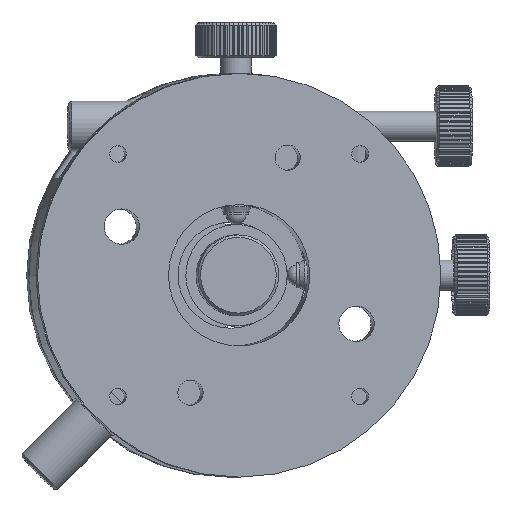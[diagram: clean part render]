
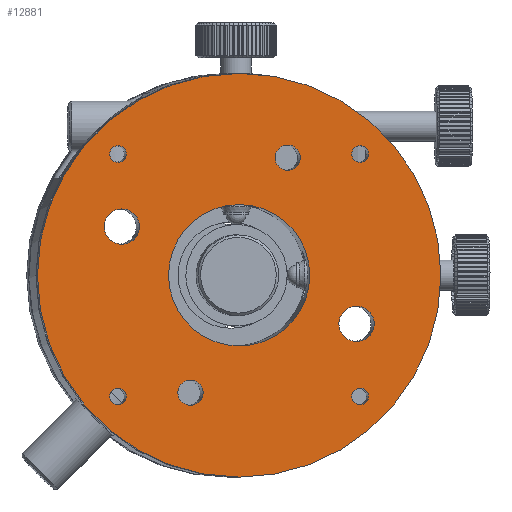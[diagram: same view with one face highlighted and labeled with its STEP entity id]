
A CAD part, front view. The second image highlights one B-rep face of the part: STEP entity #12881.
In plain terms, the highlighted planar face has unit normal (0.041, -0.999, 0).
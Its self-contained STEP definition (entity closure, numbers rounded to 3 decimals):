
#642 = AXIS2_PLACEMENT_3D ( 'NONE', #1730, #1731, #1732 ) ;
#644 = AXIS2_PLACEMENT_3D ( 'NONE', #1736, #1737, #1738 ) ;
#646 = AXIS2_PLACEMENT_3D ( 'NONE', #1742, #1743, #1744 ) ;
#647 = AXIS2_PLACEMENT_3D ( 'NONE', #1745, #1746, #1747 ) ;
#649 = AXIS2_PLACEMENT_3D ( 'NONE', #1751, #1752, #1753 ) ;
#651 = AXIS2_PLACEMENT_3D ( 'NONE', #1757, #1758, #1759 ) ;
#653 = AXIS2_PLACEMENT_3D ( 'NONE', #1763, #1764, #1765 ) ;
#655 = AXIS2_PLACEMENT_3D ( 'NONE', #1771, #1772, #1773 ) ;
#1730 = CARTESIAN_POINT ( 'NONE',  ( -29.294, -15.104, 7.823 ) ) ;
#1731 = DIRECTION ( 'NONE',  ( 0.041, -0.999, 0. ) ) ;
#1732 = DIRECTION ( 'NONE',  ( 0., 0., -1. ) ) ;
#1736 = CARTESIAN_POINT ( 'NONE',  ( -52.556, -16.066, 17.467 ) ) ;
#1737 = DIRECTION ( 'NONE',  ( -0.041, 0.999, 0. ) ) ;
#1738 = DIRECTION ( 'NONE',  ( 0., 0., 1. ) ) ;
#1742 = CARTESIAN_POINT ( 'NONE',  ( -6.032, -14.142, -1.82 ) ) ;
#1743 = DIRECTION ( 'NONE',  ( -0.041, 0.999, 0. ) ) ;
#1744 = DIRECTION ( 'NONE',  ( 0., 0., 1. ) ) ;
#1745 = CARTESIAN_POINT ( 'NONE',  ( -38.93, -15.503, -15.458 ) ) ;
#1746 = DIRECTION ( 'NONE',  ( 0.041, -0.999, 0. ) ) ;
#1747 = DIRECTION ( 'NONE',  ( 0., 0., -1. ) ) ;
#1751 = CARTESIAN_POINT ( 'NONE',  ( -19.659, -14.706, 31.105 ) ) ;
#1752 = DIRECTION ( 'NONE',  ( 0.041, -0.999, 0. ) ) ;
#1753 = DIRECTION ( 'NONE',  ( 0., 0., -1. ) ) ;
#1757 = CARTESIAN_POINT ( 'NONE',  ( -5.315, -14.113, 31.823 ) ) ;
#1758 = DIRECTION ( 'NONE',  ( 0.041, -0.999, 0. ) ) ;
#1759 = DIRECTION ( 'NONE',  ( 0., 0., -1. ) ) ;
#1763 = CARTESIAN_POINT ( 'NONE',  ( -53.274, -16.096, -16.177 ) ) ;
#1764 = DIRECTION ( 'NONE',  ( 0.041, -0.999, 0. ) ) ;
#1765 = DIRECTION ( 'NONE',  ( 0., 0., -1. ) ) ;
#1771 = CARTESIAN_POINT ( 'NONE',  ( -53.274, -16.096, 31.823 ) ) ;
#1772 = DIRECTION ( 'NONE',  ( 0.041, -0.999, 0. ) ) ;
#1773 = DIRECTION ( 'NONE',  ( 0., 0., -1. ) ) ;
#4894 = FACE_OUTER_BOUND ( 'NONE', #8458, .T. ) ;
#4895 = FACE_BOUND ( 'NONE', #8460, .T. ) ;
#4896 = FACE_BOUND ( 'NONE', #8462, .T. ) ;
#4897 = FACE_BOUND ( 'NONE', #8465, .T. ) ;
#4898 = FACE_BOUND ( 'NONE', #8467, .T. ) ;
#4899 = FACE_BOUND ( 'NONE', #8480, .T. ) ;
#4901 = FACE_BOUND ( 'NONE', #8468, .T. ) ;
#4904 = FACE_BOUND ( 'NONE', #8478, .T. ) ;
#4905 = FACE_BOUND ( 'NONE', #8471, .T. ) ;
#4907 = FACE_BOUND ( 'NONE', #8470, .T. ) ;
#7043 = AXIS2_PLACEMENT_3D ( 'NONE', #9353, #9354, #9355 ) ;
#7053 = AXIS2_PLACEMENT_3D ( 'NONE', #9502, #9503, #9504 ) ;
#7464 = VERTEX_POINT ( 'NONE', #9225 ) ;
#7472 = VERTEX_POINT ( 'NONE', #9233 ) ;
#7528 = VERTEX_POINT ( 'NONE', #13193 ) ;
#7530 = VERTEX_POINT ( 'NONE', #13195 ) ;
#7532 = VERTEX_POINT ( 'NONE', #13197 ) ;
#7533 = VERTEX_POINT ( 'NONE', #13198 ) ;
#7535 = VERTEX_POINT ( 'NONE', #13200 ) ;
#7537 = VERTEX_POINT ( 'NONE', #13202 ) ;
#7539 = VERTEX_POINT ( 'NONE', #13204 ) ;
#7541 = VERTEX_POINT ( 'NONE', #13206 ) ;
#8458 = EDGE_LOOP ( 'NONE', ( #22894 ) ) ;
#8460 = EDGE_LOOP ( 'NONE', ( #22895 ) ) ;
#8462 = EDGE_LOOP ( 'NONE', ( #22896 ) ) ;
#8465 = EDGE_LOOP ( 'NONE', ( #22897 ) ) ;
#8467 = EDGE_LOOP ( 'NONE', ( #22898 ) ) ;
#8468 = EDGE_LOOP ( 'NONE', ( #22899 ) ) ;
#8470 = EDGE_LOOP ( 'NONE', ( #22900 ) ) ;
#8471 = EDGE_LOOP ( 'NONE', ( #22901 ) ) ;
#8478 = EDGE_LOOP ( 'NONE', ( #22903 ) ) ;
#8480 = EDGE_LOOP ( 'NONE', ( #22902 ) ) ;
#9225 = CARTESIAN_POINT ( 'NONE',  ( -5.315, -14.113, -17.827 ) ) ;
#9233 = CARTESIAN_POINT ( 'NONE',  ( -29.294, -15.104, 47.823 ) ) ;
#9353 = CARTESIAN_POINT ( 'NONE',  ( -5.315, -14.113, -16.177 ) ) ;
#9354 = DIRECTION ( 'NONE',  ( 0.041, -0.999, 0. ) ) ;
#9355 = DIRECTION ( 'NONE',  ( 0., 0., -1. ) ) ;
#9502 = CARTESIAN_POINT ( 'NONE',  ( -29.294, -15.104, 7.823 ) ) ;
#9503 = DIRECTION ( 'NONE',  ( -0.041, 0.999, 0. ) ) ;
#9504 = DIRECTION ( 'NONE',  ( 0., 0., 1. ) ) ;
#10217 = DIRECTION ( 'NONE',  ( -0.041, 0.999, 0. ) ) ;
#10219 = PLANE ( 'NONE',  #12464 ) ;
#10222 = CARTESIAN_POINT ( 'NONE',  ( -29.294, -15.104, 7.823 ) ) ;
#10226 = DIRECTION ( 'NONE',  ( 0., 0., 1. ) ) ;
#12464 = AXIS2_PLACEMENT_3D ( 'NONE', #10222, #10217, #10226 ) ;
#12881 = ADVANCED_FACE ( 'NONE', ( #4904, #4899, #4905, #4907, #4901, #4898, #4897, #4896, #4895, #4894 ), #10219, .F. ) ;
#13193 = CARTESIAN_POINT ( 'NONE',  ( -29.294, -15.104, -6.177 ) ) ;
#13195 = CARTESIAN_POINT ( 'NONE',  ( -52.556, -16.066, 20.967 ) ) ;
#13197 = CARTESIAN_POINT ( 'NONE',  ( -6.032, -14.142, 1.68 ) ) ;
#13198 = CARTESIAN_POINT ( 'NONE',  ( -38.93, -15.503, -17.958 ) ) ;
#13200 = CARTESIAN_POINT ( 'NONE',  ( -19.659, -14.706, 28.605 ) ) ;
#13202 = CARTESIAN_POINT ( 'NONE',  ( -5.315, -14.113, 30.173 ) ) ;
#13204 = CARTESIAN_POINT ( 'NONE',  ( -53.274, -16.096, -17.827 ) ) ;
#13206 = CARTESIAN_POINT ( 'NONE',  ( -53.274, -16.096, 30.173 ) ) ;
#15863 = EDGE_CURVE ( 'NONE', #7464, #7464, #17588, .T. ) ;
#15881 = EDGE_CURVE ( 'NONE', #7472, #7472, #17562, .T. ) ;
#17103 = EDGE_CURVE ( 'NONE', #7528, #7528, #20546, .T. ) ;
#17105 = EDGE_CURVE ( 'NONE', #7530, #7530, #20544, .T. ) ;
#17107 = EDGE_CURVE ( 'NONE', #7532, #7532, #20542, .T. ) ;
#17108 = EDGE_CURVE ( 'NONE', #7533, #7533, #19887, .T. ) ;
#17110 = EDGE_CURVE ( 'NONE', #7535, #7535, #19883, .T. ) ;
#17112 = EDGE_CURVE ( 'NONE', #7537, #7537, #19881, .T. ) ;
#17114 = EDGE_CURVE ( 'NONE', #7539, #7539, #19879, .T. ) ;
#17116 = EDGE_CURVE ( 'NONE', #7541, #7541, #19877, .T. ) ;
#17562 = CIRCLE ( 'NONE', #7053, 40. ) ;
#17588 = CIRCLE ( 'NONE', #7043, 1.65 ) ;
#19877 = CIRCLE ( 'NONE', #655, 1.65 ) ;
#19879 = CIRCLE ( 'NONE', #653, 1.65 ) ;
#19881 = CIRCLE ( 'NONE', #651, 1.65 ) ;
#19883 = CIRCLE ( 'NONE', #649, 2.5 ) ;
#19887 = CIRCLE ( 'NONE', #647, 2.5 ) ;
#20542 = CIRCLE ( 'NONE', #646, 3.5 ) ;
#20544 = CIRCLE ( 'NONE', #644, 3.5 ) ;
#20546 = CIRCLE ( 'NONE', #642, 14. ) ;
#22894 = ORIENTED_EDGE ( 'NONE', *, *, #15881, .F. ) ;
#22895 = ORIENTED_EDGE ( 'NONE', *, *, #17103, .F. ) ;
#22896 = ORIENTED_EDGE ( 'NONE', *, *, #15863, .F. ) ;
#22897 = ORIENTED_EDGE ( 'NONE', *, *, #17116, .F. ) ;
#22898 = ORIENTED_EDGE ( 'NONE', *, *, #17114, .F. ) ;
#22899 = ORIENTED_EDGE ( 'NONE', *, *, #17112, .F. ) ;
#22900 = ORIENTED_EDGE ( 'NONE', *, *, #17110, .F. ) ;
#22901 = ORIENTED_EDGE ( 'NONE', *, *, #17108, .F. ) ;
#22902 = ORIENTED_EDGE ( 'NONE', *, *, #17107, .T. ) ;
#22903 = ORIENTED_EDGE ( 'NONE', *, *, #17105, .T. ) ;
